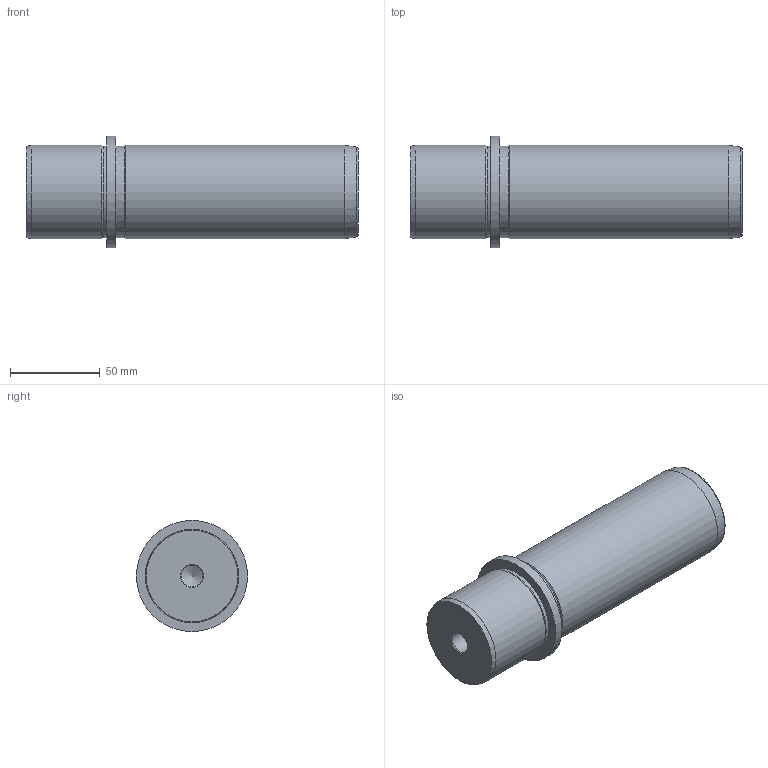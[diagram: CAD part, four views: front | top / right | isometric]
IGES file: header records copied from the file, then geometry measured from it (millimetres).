
Global section: file name: CE52140.ipt; native system: Autodesk Inventor 2021; preprocessor: unknown; author: SM; date: 20211217.134444; units: millimetre
Bounding box: 185 x 62 x 62 mm (x, y, z)
Volume: 392888.9 mm3; surface area: 37282.6 mm2
Topology: 1 solids, 1 shells, 17 faces, 35 edges, 22 vertices
Faces by surface type: cylinder 5, cone 4, plane 4, revolution 3, bspline 1
Full cylindrical faces by diameter (mm): 51 x2, 52 x2, 62 x1
